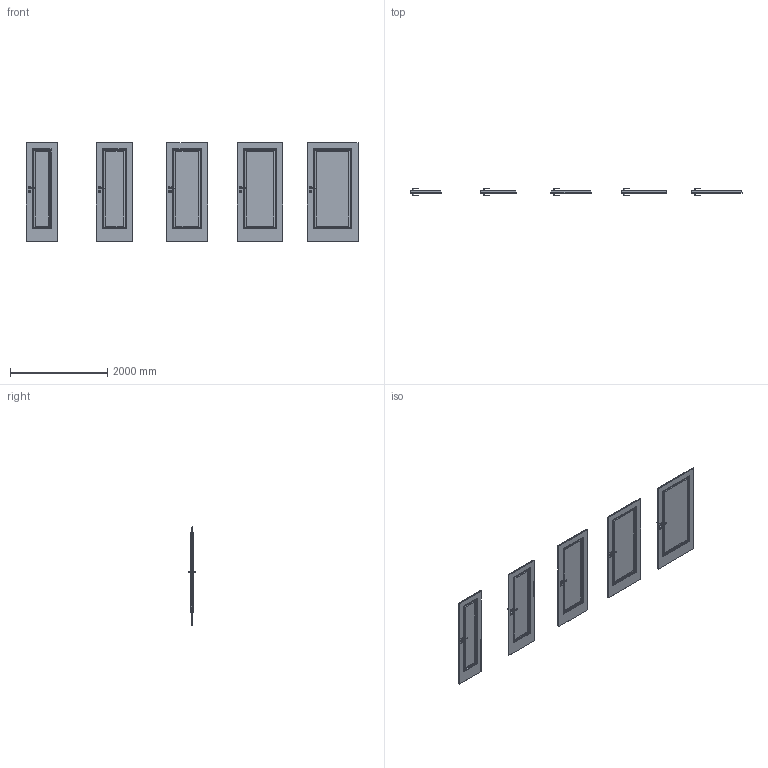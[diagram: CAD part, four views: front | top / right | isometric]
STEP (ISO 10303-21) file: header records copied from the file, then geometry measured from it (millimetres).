
FILE_DESCRIPTION(/* description */ (''),/* implementation_level */ '2;1');
FILE_NAME(/* name */ '049920_A_3-Skrzydło NOVA model 2_ polska norma _PN__ przylgowe..stp',/* time_stamp */ '2024-10-31T12:08:30+01:00',/* author */ (''),/* organization */ (''),/* preprocessor_version */ 'ST-DEVELOPER v16',/* originating_system */ 'SIEMENS PLM Software NX 11.0',/* authorisation */ '');
FILE_SCHEMA (('AUTOMOTIVE_DESIGN { 1 0 10303 214 3 1 1 1 }'));
Products named in the file (1): bkni1DCC942B7rcn
Bounding box: 6844 x 153.13 x 2030 mm (x, y, z)
Volume: 225206052.4 mm3; surface area: 20192247.8 mm2
Topology: 25 solids, 33 shells, 1587 faces, 3996 edges, 2298 vertices
Faces by surface type: plane 785, bspline 410, cylinder 252, sphere 140
Entity records: 72422 total; most frequent: CARTESIAN_POINT 37750, ORIENTED_EDGE 7712, DIRECTION 6138, EDGE_CURVE 3856, VERTEX_POINT 2298, LINE 2150, VECTOR 2150, AXIS2_PLACEMENT_3D 1994
